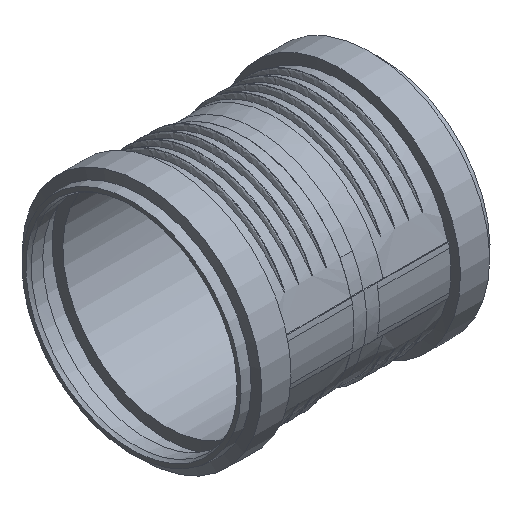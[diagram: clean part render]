
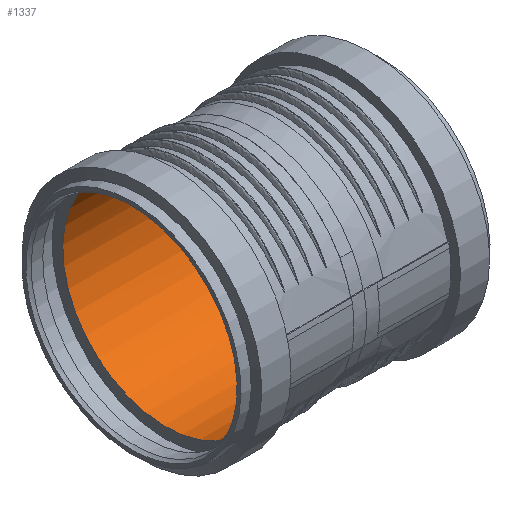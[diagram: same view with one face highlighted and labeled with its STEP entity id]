
A CAD part, isometric view. The second image highlights one B-rep face of the part: STEP entity #1337.
In plain terms, the highlighted cylindrical face has radius 63 mm (diameter 126 mm), a full revolution.
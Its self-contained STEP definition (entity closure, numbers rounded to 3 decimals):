
#164=CYLINDRICAL_SURFACE('',#1446,63.);
#173=FACE_OUTER_BOUND('',#254,.T.);
#254=EDGE_LOOP('',(#871,#872,#873,#874,#875));
#365=LINE('',#1896,#391);
#391=VECTOR('',#1598,63.);
#414=CIRCLE('',#1439,63.);
#415=CIRCLE('',#1440,63.);
#419=CIRCLE('',#1447,63.);
#525=VERTEX_POINT('',#1879);
#526=VERTEX_POINT('',#1880);
#530=VERTEX_POINT('',#1895);
#666=EDGE_CURVE('',#525,#526,#414,.T.);
#667=EDGE_CURVE('',#526,#525,#415,.T.);
#674=EDGE_CURVE('',#525,#530,#365,.T.);
#675=EDGE_CURVE('',#530,#530,#419,.T.);
#871=ORIENTED_EDGE('',*,*,#666,.T.);
#872=ORIENTED_EDGE('',*,*,#667,.T.);
#873=ORIENTED_EDGE('',*,*,#674,.T.);
#874=ORIENTED_EDGE('',*,*,#675,.F.);
#875=ORIENTED_EDGE('',*,*,#674,.F.);
#1337=ADVANCED_FACE('',(#173),#164,.F.);
#1439=AXIS2_PLACEMENT_3D('',#1881,#1579,#1580);
#1440=AXIS2_PLACEMENT_3D('',#1882,#1581,#1582);
#1446=AXIS2_PLACEMENT_3D('',#1894,#1596,#1597);
#1447=AXIS2_PLACEMENT_3D('',#1897,#1599,#1600);
#1579=DIRECTION('center_axis',(1.,0.,0.));
#1580=DIRECTION('ref_axis',(0.,-0.878,0.479));
#1581=DIRECTION('center_axis',(1.,0.,0.));
#1582=DIRECTION('ref_axis',(0.,-0.878,0.479));
#1596=DIRECTION('center_axis',(-1.,0.,0.));
#1597=DIRECTION('ref_axis',(0.,-0.878,0.479));
#1598=DIRECTION('',(-1.,0.,0.));
#1599=DIRECTION('center_axis',(1.,0.,0.));
#1600=DIRECTION('ref_axis',(0.,-0.878,0.479));
#1879=CARTESIAN_POINT('',(54.636,55.288,-30.204));
#1880=CARTESIAN_POINT('',(54.636,55.288,30.204));
#1881=CARTESIAN_POINT('Origin',(54.636,0.,0.));
#1882=CARTESIAN_POINT('Origin',(54.636,0.,0.));
#1894=CARTESIAN_POINT('Origin',(-50.8,0.,0.));
#1895=CARTESIAN_POINT('',(-54.635,55.288,-30.204));
#1896=CARTESIAN_POINT('',(-50.8,55.288,-30.204));
#1897=CARTESIAN_POINT('Origin',(-54.635,0.,0.));
